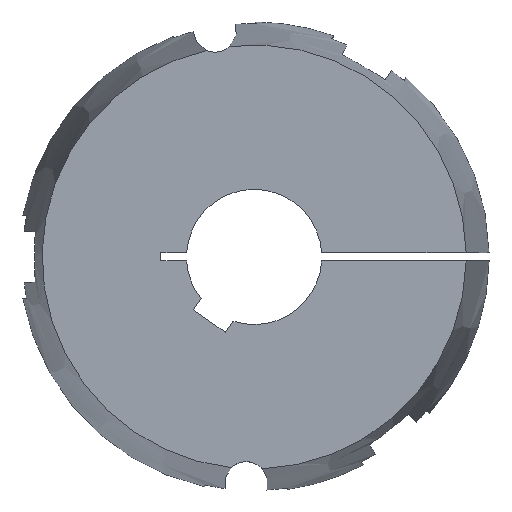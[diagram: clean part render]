
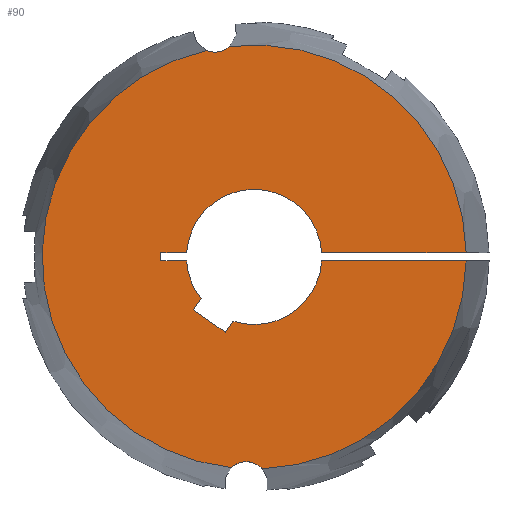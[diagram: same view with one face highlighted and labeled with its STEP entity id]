
A CAD part, left-side view. The second image highlights one B-rep face of the part: STEP entity #90.
In plain terms, the highlighted planar face has unit normal (-1, 0, 0).
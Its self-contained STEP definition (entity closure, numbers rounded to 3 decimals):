
#90 = ADVANCED_FACE( '', ( #140 ), #141, .F. );
#140 = FACE_OUTER_BOUND( '', #208, .T. );
#141 = PLANE( '', #209 );
#208 = EDGE_LOOP( '', ( #369, #370, #371, #372, #373, #374, #375, #376, #377, #378, #379, #380, #381, #382, #383, #384 ) );
#209 = AXIS2_PLACEMENT_3D( '', #385, #386, #387 );
#369 = ORIENTED_EDGE( '', *, *, #548, .F. );
#370 = ORIENTED_EDGE( '', *, *, #601, .F. );
#371 = ORIENTED_EDGE( '', *, *, #570, .T. );
#372 = ORIENTED_EDGE( '', *, *, #583, .T. );
#373 = ORIENTED_EDGE( '', *, *, #581, .T. );
#374 = ORIENTED_EDGE( '', *, *, #578, .T. );
#375 = ORIENTED_EDGE( '', *, *, #587, .T. );
#376 = ORIENTED_EDGE( '', *, *, #602, .T. );
#377 = ORIENTED_EDGE( '', *, *, #603, .T. );
#378 = ORIENTED_EDGE( '', *, *, #604, .T. );
#379 = ORIENTED_EDGE( '', *, *, #605, .T. );
#380 = ORIENTED_EDGE( '', *, *, #606, .T. );
#381 = ORIENTED_EDGE( '', *, *, #572, .T. );
#382 = ORIENTED_EDGE( '', *, *, #607, .F. );
#383 = ORIENTED_EDGE( '', *, *, #551, .F. );
#384 = ORIENTED_EDGE( '', *, *, #608, .F. );
#385 = CARTESIAN_POINT( '', ( -102., 0., 0. ) );
#386 = DIRECTION( '', ( 1., 0., 0. ) );
#387 = DIRECTION( '', ( 0., 1., 0. ) );
#548 = EDGE_CURVE( '', #649, #651, #652, .F. );
#551 = EDGE_CURVE( '', #655, #657, #658, .F. );
#570 = EDGE_CURVE( '', #693, #691, #694, .T. );
#572 = EDGE_CURVE( '', #696, #697, #698, .T. );
#578 = EDGE_CURVE( '', #709, #707, #710, .T. );
#581 = EDGE_CURVE( '', #714, #709, #715, .T. );
#583 = EDGE_CURVE( '', #691, #714, #717, .T. );
#587 = EDGE_CURVE( '', #707, #721, #723, .T. );
#601 = EDGE_CURVE( '', #693, #649, #745, .T. );
#602 = EDGE_CURVE( '', #721, #746, #747, .T. );
#603 = EDGE_CURVE( '', #746, #748, #749, .T. );
#604 = EDGE_CURVE( '', #748, #750, #751, .T. );
#605 = EDGE_CURVE( '', #750, #752, #753, .T. );
#606 = EDGE_CURVE( '', #752, #696, #754, .T. );
#607 = EDGE_CURVE( '', #657, #697, #755, .T. );
#608 = EDGE_CURVE( '', #651, #655, #756, .T. );
#649 = VERTEX_POINT( '', #815 );
#651 = VERTEX_POINT( '', #828 );
#652 = CIRCLE( '', #829, 6.75 );
#655 = VERTEX_POINT( '', #843 );
#657 = VERTEX_POINT( '', #856 );
#658 = CIRCLE( '', #857, 6.75 );
#691 = VERTEX_POINT( '', #924 );
#693 = VERTEX_POINT( '', #927 );
#694 = LINE( '', #928, #929 );
#696 = VERTEX_POINT( '', #937 );
#697 = VERTEX_POINT( '', #938 );
#698 = LINE( '', #939, #940 );
#707 = VERTEX_POINT( '', #958 );
#709 = VERTEX_POINT( '', #961 );
#710 = LINE( '', #962, #963 );
#714 = VERTEX_POINT( '', #969 );
#715 = LINE( '', #970, #971 );
#717 = CIRCLE( '', #974, 21. );
#721 = VERTEX_POINT( '', #979 );
#723 = LINE( '', #982, #983 );
#745 = CIRCLE( '', #1008, 65.867 );
#746 = VERTEX_POINT( '', #1009 );
#747 = CIRCLE( '', #1010, 21. );
#748 = VERTEX_POINT( '', #1011 );
#749 = LINE( '', #1012, #1013 );
#750 = VERTEX_POINT( '', #1014 );
#751 = LINE( '', #1015, #1016 );
#752 = VERTEX_POINT( '', #1017 );
#753 = LINE( '', #1018, #1019 );
#754 = CIRCLE( '', #1020, 21. );
#755 = CIRCLE( '', #1021, 65.867 );
#756 = CIRCLE( '', #1022, 65.867 );
#815 = CARTESIAN_POINT( '', ( -102., -2.538, -65.819 ) );
#828 = CARTESIAN_POINT( '', ( -102., 7.121, -65.481 ) );
#829 = AXIS2_PLACEMENT_3D( '', #1188, #1189, #1190 );
#843 = CARTESIAN_POINT( '', ( -102., 14.891, 64.162 ) );
#856 = CARTESIAN_POINT( '', ( -102., 7.611, 65.426 ) );
#857 = AXIS2_PLACEMENT_3D( '', #1191, #1192, #1193 );
#924 = CARTESIAN_POINT( '', ( -102., -20.963, -1.25 ) );
#927 = CARTESIAN_POINT( '', ( -102., -65.856, -1.25 ) );
#928 = CARTESIAN_POINT( '', ( -102., -73., -1.25 ) );
#929 = VECTOR( '', #1223, 1000. );
#937 = CARTESIAN_POINT( '', ( -102., -20.963, 1.25 ) );
#938 = CARTESIAN_POINT( '', ( -102., -65.856, 1.25 ) );
#939 = CARTESIAN_POINT( '', ( -102., 0., 1.25 ) );
#940 = VECTOR( '', #1224, 1000. );
#958 = CARTESIAN_POINT( '', ( -102., 18.853, -16.464 ) );
#961 = CARTESIAN_POINT( '', ( -102., 9.023, -23.347 ) );
#962 = CARTESIAN_POINT( '', ( -102., 9.023, -23.347 ) );
#963 = VECTOR( '', #1229, 1000. );
#969 = CARTESIAN_POINT( '', ( -102., 6.628, -19.927 ) );
#970 = CARTESIAN_POINT( '', ( -102., 6.628, -19.927 ) );
#971 = VECTOR( '', #1232, 1000. );
#974 = AXIS2_PLACEMENT_3D( '', #1234, #1235, #1236 );
#979 = CARTESIAN_POINT( '', ( -102., 16.458, -13.044 ) );
#982 = CARTESIAN_POINT( '', ( -102., 18.853, -16.464 ) );
#983 = VECTOR( '', #1242, 1000. );
#1008 = AXIS2_PLACEMENT_3D( '', #1276, #1277, #1278 );
#1009 = CARTESIAN_POINT( '', ( -102., 20.963, -1.25 ) );
#1010 = AXIS2_PLACEMENT_3D( '', #1279, #1280, #1281 );
#1011 = CARTESIAN_POINT( '', ( -102., 29., -1.25 ) );
#1012 = CARTESIAN_POINT( '', ( -102., 0., -1.25 ) );
#1013 = VECTOR( '', #1282, 1000. );
#1014 = CARTESIAN_POINT( '', ( -102., 29., 1.25 ) );
#1015 = CARTESIAN_POINT( '', ( -102., 29., -1.25 ) );
#1016 = VECTOR( '', #1283, 1000. );
#1017 = CARTESIAN_POINT( '', ( -102., 20.963, 1.25 ) );
#1018 = CARTESIAN_POINT( '', ( -102., 29., 1.25 ) );
#1019 = VECTOR( '', #1284, 1000. );
#1020 = AXIS2_PLACEMENT_3D( '', #1285, #1286, #1287 );
#1021 = AXIS2_PLACEMENT_3D( '', #1288, #1289, #1290 );
#1022 = AXIS2_PLACEMENT_3D( '', #1291, #1292, #1293 );
#1188 = CARTESIAN_POINT( '', ( -102., 2.456, -70.36 ) );
#1189 = DIRECTION( '', ( 1., 0., 0. ) );
#1190 = DIRECTION( '', ( 0., 1., 0. ) );
#1191 = CARTESIAN_POINT( '', ( -102., 12.218, 70.36 ) );
#1192 = DIRECTION( '', ( 1., 0., 0. ) );
#1193 = DIRECTION( '', ( 0., 1., 0. ) );
#1223 = DIRECTION( '', ( 0., 1., 0. ) );
#1224 = DIRECTION( '', ( 0., -1., 0. ) );
#1229 = DIRECTION( '', ( 0., 0.819, 0.574 ) );
#1232 = DIRECTION( '', ( 0., 0.574, -0.819 ) );
#1234 = CARTESIAN_POINT( '', ( -102., 0., 0. ) );
#1235 = DIRECTION( '', ( 1., 0., 0. ) );
#1236 = DIRECTION( '', ( 0., 0., -1. ) );
#1242 = DIRECTION( '', ( 0., -0.574, 0.819 ) );
#1276 = CARTESIAN_POINT( '', ( -102., 0., 0. ) );
#1277 = DIRECTION( '', ( 1., 0., 0. ) );
#1278 = DIRECTION( '', ( 0., 1., 0. ) );
#1279 = CARTESIAN_POINT( '', ( -102., 0., 0. ) );
#1280 = DIRECTION( '', ( 1., 0., 0. ) );
#1281 = DIRECTION( '', ( 0., 0., -1. ) );
#1282 = DIRECTION( '', ( 0., 1., 0. ) );
#1283 = DIRECTION( '', ( 0., 0., 1. ) );
#1284 = DIRECTION( '', ( 0., -1., 0. ) );
#1285 = CARTESIAN_POINT( '', ( -102., 0., 0. ) );
#1286 = DIRECTION( '', ( 1., 0., 0. ) );
#1287 = DIRECTION( '', ( 0., 0., -1. ) );
#1288 = CARTESIAN_POINT( '', ( -102., 0., 0. ) );
#1289 = DIRECTION( '', ( 1., 0., 0. ) );
#1290 = DIRECTION( '', ( 0., 1., 0. ) );
#1291 = CARTESIAN_POINT( '', ( -102., 0., 0. ) );
#1292 = DIRECTION( '', ( 1., 0., 0. ) );
#1293 = DIRECTION( '', ( 0., 1., 0. ) );
